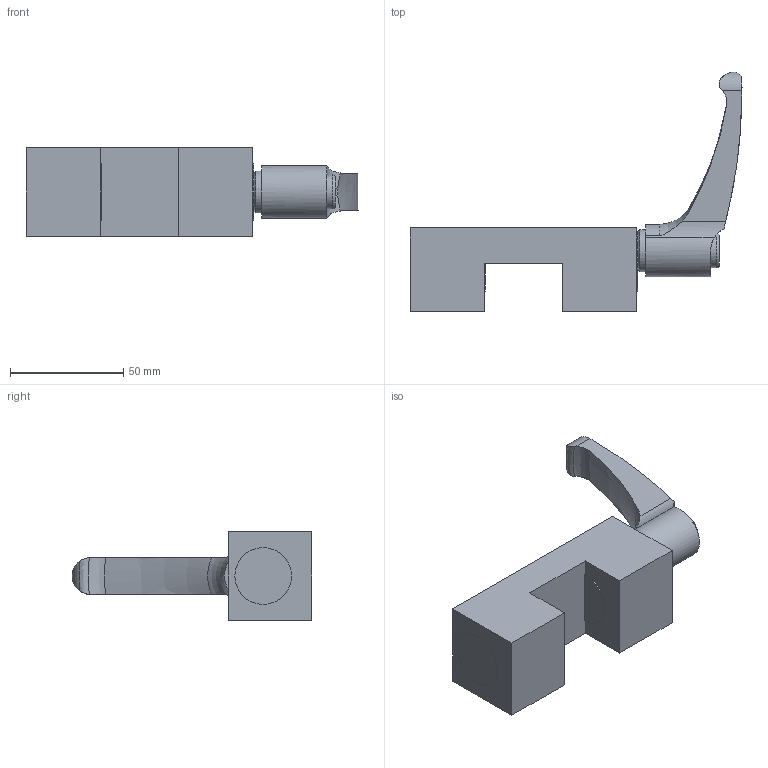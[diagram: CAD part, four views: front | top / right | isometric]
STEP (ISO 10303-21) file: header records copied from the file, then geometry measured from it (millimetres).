
FILE_DESCRIPTION(/* description */ ('STEP AP214'),/* implementation_level */ '2;1');
FILE_NAME(/* name */ 'HK3501A',/* time_stamp */ '2023-05-09T02:56:03+02:00',/* author */ ('License CC BY-ND 4.0'),/* organization */ ('CADENAS'),/* preprocessor_version */ 'ST-DEVELOPER v19.3',/* originating_system */ 'PARTsolutions',/* authorisation */ ' ');
FILE_SCHEMA (('AUTOMOTIVE_DESIGN {1 0 10303 214 3 1 1}'));
Length unit declared in the file: millimetre
Products named in the file (3): HK3501A; ELESA-Klemmhebel GN 604-78-M8-SG_NBK; ghkHK3501A34034
Assembly tree (2 placements, depth 2):
  HK3501A
    ELESA-Klemmhebel GN 604-78-M8-SG_NBK
    ghkHK3501A34034
Bounding box: 146.46 x 105.78 x 39 mm (x, y, z)
Volume: 140053.6 mm3; surface area: 26477.6 mm2
Topology: 2 solids, 2 shells, 64 faces, 164 edges, 109 vertices
Faces by surface type: plane 28, cylinder 17, torus 10, cone 9
Full cylindrical faces by diameter (mm): 6.647 x5, 18.5 x1, 25 x2
Entity records: 1928 total; most frequent: CARTESIAN_POINT 456, DIRECTION 276, ORIENTED_EDGE 270, EDGE_CURVE 135, AXIS2_PLACEMENT_3D 108, VERTEX_POINT 102, FACE_BOUND 91, EDGE_LOOP 87
